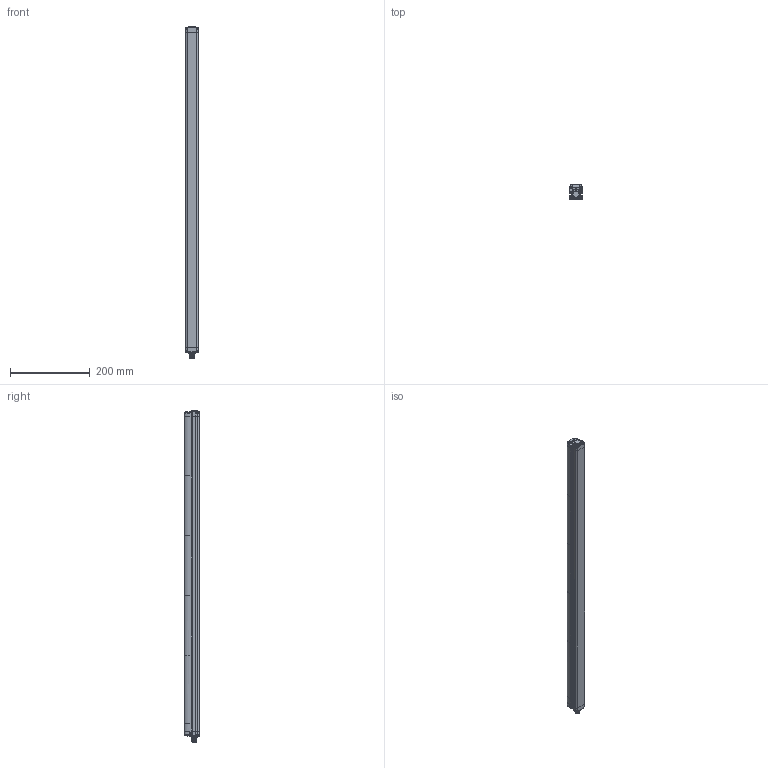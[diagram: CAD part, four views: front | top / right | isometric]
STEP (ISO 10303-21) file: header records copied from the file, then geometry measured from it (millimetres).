
FILE_DESCRIPTION(/* description */ (''),/* implementation_level */ '2;1');
FILE_NAME(/* name */ 'DSD-0149.stp',/* time_stamp */ '2020-07-15T15:41:45+02:00',/* author */ (''),/* organization */ (''),/* preprocessor_version */ 'ST-DEVELOPER v16.7',/* originating_system */ 'SIEMENS PLM Software NX 12.0',/* authorisation */ '');
FILE_SCHEMA (('AUTOMOTIVE_DESIGN { 1 0 10303 214 3 1 1 1 }'));
Products named in the file (1): AP025790_00_1-DSD-0149
Bounding box: 32.3 x 36.9 x 833.34 mm (x, y, z)
Volume: 817358.7 mm3; surface area: 196190.9 mm2
Topology: 12 solids, 716 shells, 1625 faces, 5090 edges, 4009 vertices
Faces by surface type: cylinder 606, bspline 554, plane 376, sphere 54, cone 27, torus 8
Full cylindrical faces by diameter (mm): 1 x8, 1.5 x6, 2 x6, 2.05 x4, 2.5 x12, 2.7 x10, 2.9 x6, 3 x12, 3.4 x6, 3.6 x12, 4.7 x2, 5 x10, 5.3 x2, 7.5 x1, 8 x1, 8.2 x1, 9.3 x1, 9.5 x1, 9.55 x1, 10.5 x1, 11 x2, 12 x12, 13.97 x1, 14.3 x1, 16 x2
Entity records: 83795 total; most frequent: CARTESIAN_POINT 35440, ORIENTED_EDGE 6906, DIRECTION 5943, EDGE_CURVE 4879, VERTEX_POINT 4002, AXIS2_PLACEMENT_3D 2321, EDGE_LOOP 1857, PRESENTATION_STYLE_ASSIGNMENT 1630
